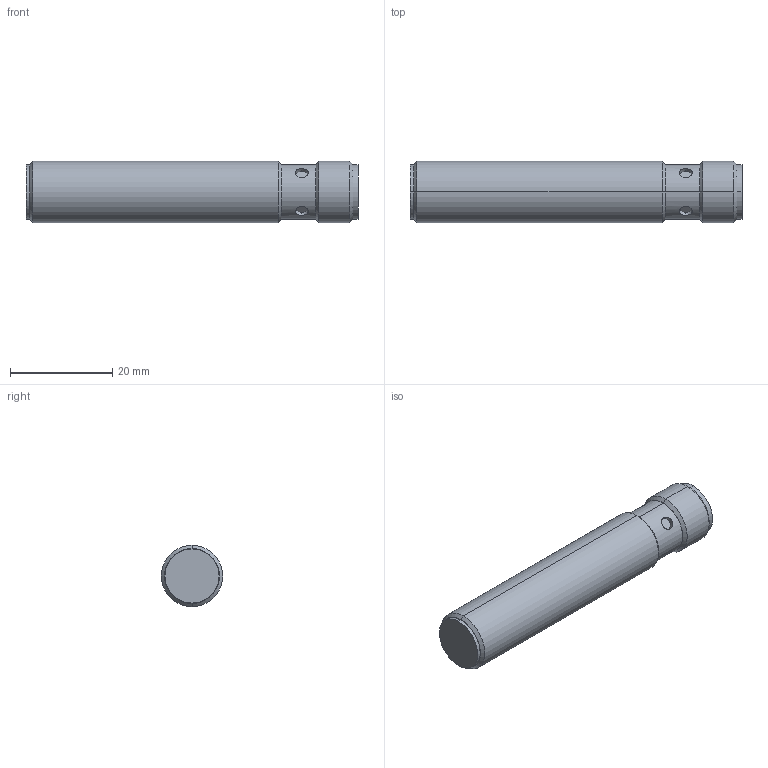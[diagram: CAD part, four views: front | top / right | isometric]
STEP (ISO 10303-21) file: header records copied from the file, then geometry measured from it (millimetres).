
FILE_DESCRIPTION (( 'STEP AP203' ), '1' );
FILE_NAME ('15000002.STEP', '2019-02-15T12:57:42', ( '' ), ( '' ), 'SwSTEP 2.0', 'SolidWorks 2015', '' );
FILE_SCHEMA (( 'CONFIG_CONTROL_DESIGN' ));
Length unit declared in the file: millimetre
Products named in the file (1): 15000002
Bounding box: 65 x 12 x 12 mm (x, y, z)
Volume: 6660.8 mm3; surface area: 2987.2 mm2
Topology: 1 solids, 1 shells, 63 faces, 128 edges, 80 vertices
Faces by surface type: cylinder 29, plane 18, cone 16
Entity records: 1867 total; most frequent: CARTESIAN_POINT 416, DIRECTION 316, ORIENTED_EDGE 256, AXIS2_PLACEMENT_3D 132, EDGE_CURVE 128, VERTEX_POINT 80, EDGE_LOOP 76, CIRCLE 68
